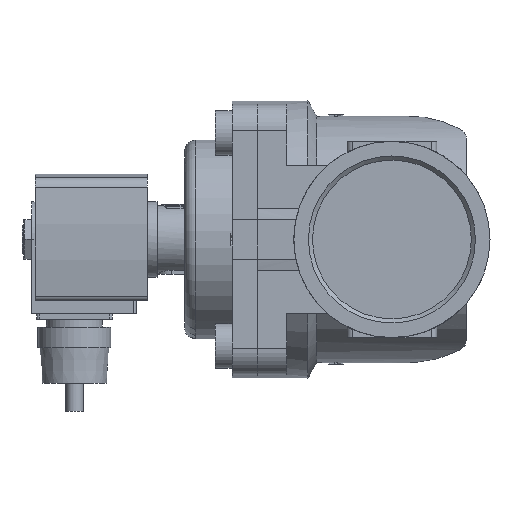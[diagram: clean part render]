
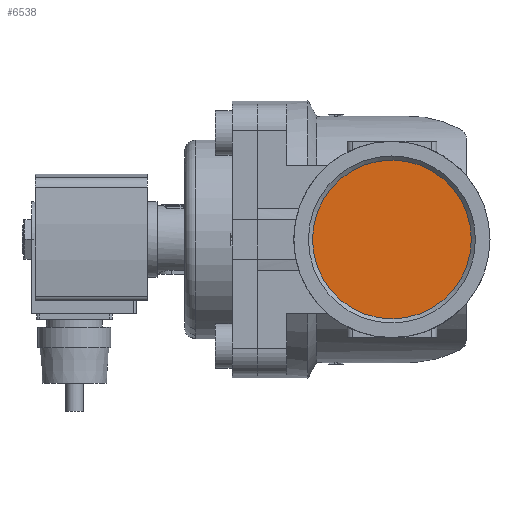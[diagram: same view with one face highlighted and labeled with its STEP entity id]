
A CAD part, left-side view. The second image highlights one B-rep face of the part: STEP entity #6538.
In plain terms, the highlighted planar face has unit normal (-1, 0, 0).
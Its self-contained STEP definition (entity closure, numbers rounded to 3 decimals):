
#2499=ORIENTED_EDGE('',*,*,#3500,.F.);
#3500=EDGE_CURVE('',#4107,#4107,#4377,.T.);
#4107=VERTEX_POINT('',#10381);
#4377=CIRCLE('',#7059,28.328);
#4701=EDGE_LOOP('',(#2499));
#5061=FACE_BOUND('',#4701,.T.);
#5311=PLANE('',#7060);
#6538=ADVANCED_FACE('',(#5061),#5311,.T.);
#7059=AXIS2_PLACEMENT_3D('',#10380,#8445,#8446);
#7060=AXIS2_PLACEMENT_3D('',#10382,#8447,#8448);
#8445=DIRECTION('',(1.,0.,0.));
#8446=DIRECTION('',(0.,1.,0.));
#8447=DIRECTION('',(-1.,0.,0.));
#8448=DIRECTION('',(0.,-1.,0.));
#10380=CARTESIAN_POINT('',(-41.,0.,0.));
#10381=CARTESIAN_POINT('',(-41.,28.328,0.));
#10382=CARTESIAN_POINT('',(-41.,28.328,0.));
